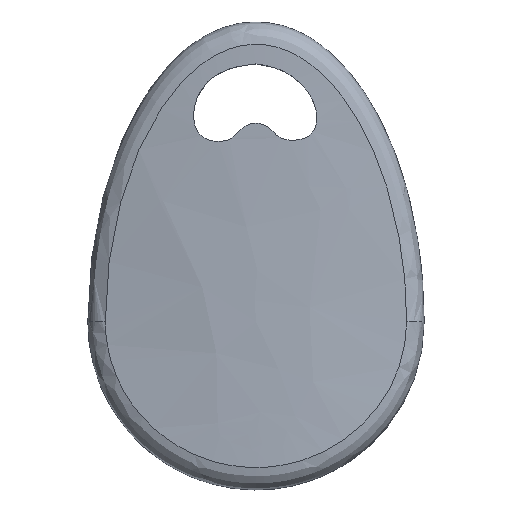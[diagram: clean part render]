
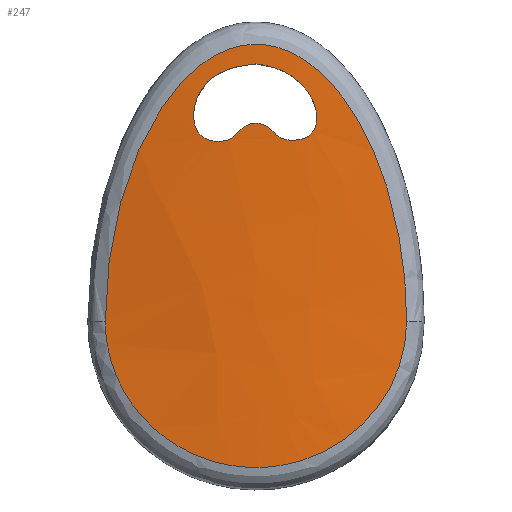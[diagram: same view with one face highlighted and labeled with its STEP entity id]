
A CAD part, top view. The second image highlights one B-rep face of the part: STEP entity #247.
In plain terms, the highlighted face is a extrusion surface.
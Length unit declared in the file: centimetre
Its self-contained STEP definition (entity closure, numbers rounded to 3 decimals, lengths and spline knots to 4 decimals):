
#141=SURFACE_OF_LINEAR_EXTRUSION('',#321,#1162);
#150=B_SPLINE_CURVE_WITH_KNOTS('',3,(#2168,#2169,#2170,#2171,#2172,#2173,
#2174,#2175,#2176,#2177,#2178,#2179,#2180,#2181,#2182,#2183,#2184,#2185),
 .UNSPECIFIED.,.F.,.U.,(4,2,2,2,2,2,2,2,4),(-4.0766,-3.3867,
-2.7177,-2.2996,-2.0383,-1.777,
-1.3589,-0.6899,0.),.UNSPECIFIED.);
#151=B_SPLINE_CURVE_WITH_KNOTS('',3,(#2294,#2295,#2296,#2297,#2298,#2299,
#2300,#2301,#2302,#2303,#2304,#2305,#2306,#2307,#2308,#2309,#2310,#2311),
 .UNSPECIFIED.,.F.,.U.,(4,2,2,2,2,2,2,2,4),(0.,0.7739,
2.0122,2.8326,3.2428,3.653,4.2377,
5.1186,6.0367),.UNSPECIFIED.);
#152=B_SPLINE_CURVE_WITH_KNOTS('',3,(#2314,#2315,#2316,#2317,#2318,#2319,
#2320,#2321,#2322,#2323,#2324,#2325,#2326,#2327,#2328,#2329,#2330,#2331,
#2332,#2333,#2334,#2335,#2336,#2337,#2338,#2339,#2340,#2341,#2342,#2343,
#2344,#2345,#2346,#2347,#2348,#2349,#2350,#2351,#2352,#2353,#2354,#2355,
#2356,#2357,#2358,#2359,#2360,#2361,#2362,#2363,#2364,#2365,#2366,#2367,
#2368,#2369),.UNSPECIFIED.,.T.,.U.,(4,2,2,2,2,2,2,2,2,2,2,2,2,2,2,2,2,2,
2,2,2,2,2,2,2,2,2,4),(-3.5599,-3.4341,-3.3423,
-3.2155,-3.0935,-2.998,-2.9411,-2.9005,
-2.8495,-2.7536,-2.6784,-2.6059,
-2.5159,-2.401,-2.2501,-2.0491,-1.7882,
-1.6083,-1.4648,-1.2636,-1.0942,
-0.9941,-0.9069,-0.8044,-0.6708,
-0.4977,-0.2932,0.),.UNSPECIFIED.);
#161=VERTEX_POINT('',#2147);
#162=VERTEX_POINT('',#2167);
#163=VERTEX_POINT('',#2370);
#178=EDGE_CURVE('',#162,#161,#150,.T.);
#179=EDGE_CURVE('',#161,#162,#151,.T.);
#180=EDGE_CURVE('',#163,#163,#152,.T.);
#210=ORIENTED_EDGE('',*,*,#180,.F.);
#211=ORIENTED_EDGE('',*,*,#178,.F.);
#212=ORIENTED_EDGE('',*,*,#179,.F.);
#226=EDGE_LOOP('',(#210));
#227=EDGE_LOOP('',(#211,#212));
#237=FACE_BOUND('',#226,.T.);
#238=FACE_BOUND('',#227,.T.);
#247=ADVANCED_FACE('',(#237,#238),#141,.T.);
#321=ELLIPSE('',#1087,2.0146,0.5022);
#1087=AXIS2_PLACEMENT_3D('',#2313,#1353,#1354);
#1162=VECTOR('',#1355,1.);
#1353=DIRECTION('',(0.,1.,0.));
#1354=DIRECTION('',(-1.,0.,0.));
#1355=DIRECTION('',(0.,1.,0.));
#2147=CARTESIAN_POINT('',(-1.3435,0.,0.5701));
#2167=CARTESIAN_POINT('',(1.3435,0.,0.5701));
#2168=CARTESIAN_POINT('',(1.3435,0.,0.5701));
#2169=CARTESIAN_POINT('',(1.3435,-0.23,0.5701));
#2170=CARTESIAN_POINT('',(1.2767,-0.4616,0.5862));
#2171=CARTESIAN_POINT('',(1.0349,-0.8537,0.6283));
#2172=CARTESIAN_POINT('',(0.8652,-1.0155,0.6525));
#2173=CARTESIAN_POINT('',(0.5401,-1.1969,0.6809));
#2174=CARTESIAN_POINT('',(0.4045,-1.2466,0.6892));
#2175=CARTESIAN_POINT('',(0.1767,-1.2915,0.6967));
#2176=CARTESIAN_POINT('',(0.0873,-1.3001,0.6981));
#2177=CARTESIAN_POINT('',(-0.0915,-1.2999,0.6981));
#2178=CARTESIAN_POINT('',(-0.1809,-1.2909,0.6966));
#2179=CARTESIAN_POINT('',(-0.4084,-1.2453,0.689));
#2180=CARTESIAN_POINT('',(-0.5442,-1.1951,0.6806));
#2181=CARTESIAN_POINT('',(-0.8677,-1.0133,0.6522));
#2182=CARTESIAN_POINT('',(-1.0372,-0.8508,0.6279));
#2183=CARTESIAN_POINT('',(-1.2772,-0.4598,0.5861));
#2184=CARTESIAN_POINT('',(-1.3435,-0.23,0.5701));
#2185=CARTESIAN_POINT('',(-1.3435,0.,0.5701));
#2294=CARTESIAN_POINT('',(-1.3435,0.,0.5701));
#2295=CARTESIAN_POINT('',(-1.3435,0.258,0.5701));
#2296=CARTESIAN_POINT('',(-1.3206,0.5176,0.5755));
#2297=CARTESIAN_POINT('',(-1.1969,1.1793,0.6006));
#2298=CARTESIAN_POINT('',(-1.0608,1.5853,0.6277));
#2299=CARTESIAN_POINT('',(-0.6705,2.1571,0.6714));
#2300=CARTESIAN_POINT('',(-0.4601,2.3718,0.6895));
#2301=CARTESIAN_POINT('',(-0.0544,2.4865,0.6991));
#2302=CARTESIAN_POINT('',(0.0928,2.482,0.6987));
#2303=CARTESIAN_POINT('',(0.3595,2.3919,0.6912));
#2304=CARTESIAN_POINT('',(0.4778,2.3122,0.6845));
#2305=CARTESIAN_POINT('',(0.727,2.083,0.6658));
#2306=CARTESIAN_POINT('',(0.842,1.9206,0.6529));
#2307=CARTESIAN_POINT('',(1.0809,1.4873,0.6216));
#2308=CARTESIAN_POINT('',(1.1776,1.2064,0.6039));
#2309=CARTESIAN_POINT('',(1.3112,0.6164,0.5778));
#2310=CARTESIAN_POINT('',(1.3435,0.3061,0.5701));
#2311=CARTESIAN_POINT('',(1.3435,0.,0.5701));
#2313=CARTESIAN_POINT('',(0.,-6.7047,0.1959));
#2314=CARTESIAN_POINT('',(0.,2.3,0.6981));
#2315=CARTESIAN_POINT('',(-0.0658,2.2949,0.6981));
#2316=CARTESIAN_POINT('',(-0.1334,2.285,0.6973));
#2317=CARTESIAN_POINT('',(-0.2435,2.2544,0.6946));
#2318=CARTESIAN_POINT('',(-0.2891,2.2371,0.693));
#2319=CARTESIAN_POINT('',(-0.3894,2.1809,0.6889));
#2320=CARTESIAN_POINT('',(-0.4297,2.1427,0.6866));
#2321=CARTESIAN_POINT('',(-0.4891,2.0667,0.6832));
#2322=CARTESIAN_POINT('',(-0.5228,2.012,0.6809));
#2323=CARTESIAN_POINT('',(-0.5567,1.8928,0.6786));
#2324=CARTESIAN_POINT('',(-0.5594,1.8436,0.6784));
#2325=CARTESIAN_POINT('',(-0.5512,1.7742,0.679));
#2326=CARTESIAN_POINT('',(-0.5446,1.744,0.6794));
#2327=CARTESIAN_POINT('',(-0.5209,1.695,0.6811));
#2328=CARTESIAN_POINT('',(-0.5079,1.6766,0.6819));
#2329=CARTESIAN_POINT('',(-0.4705,1.6418,0.6843));
#2330=CARTESIAN_POINT('',(-0.4485,1.6311,0.6855));
#2331=CARTESIAN_POINT('',(-0.3991,1.6127,0.6882));
#2332=CARTESIAN_POINT('',(-0.362,1.6078,0.69));
#2333=CARTESIAN_POINT('',(-0.3004,1.6094,0.6926));
#2334=CARTESIAN_POINT('',(-0.2744,1.6136,0.6935));
#2335=CARTESIAN_POINT('',(-0.2322,1.6281,0.6948));
#2336=CARTESIAN_POINT('',(-0.2149,1.6384,0.6953));
#2337=CARTESIAN_POINT('',(-0.176,1.6731,0.6962));
#2338=CARTESIAN_POINT('',(-0.1594,1.6956,0.6966));
#2339=CARTESIAN_POINT('',(-0.1105,1.7398,0.6974));
#2340=CARTESIAN_POINT('',(-0.0835,1.752,0.6977));
#2341=CARTESIAN_POINT('',(-0.0488,1.7654,0.698));
#2342=CARTESIAN_POINT('',(-0.0279,1.7702,0.6981));
#2343=CARTESIAN_POINT('',(0.0213,1.7716,0.6981));
#2344=CARTESIAN_POINT('',(0.0447,1.7651,0.698));
#2345=CARTESIAN_POINT('',(0.0841,1.7502,0.6977));
#2346=CARTESIAN_POINT('',(0.1097,1.737,0.6974));
#2347=CARTESIAN_POINT('',(0.1563,1.6943,0.6966));
#2348=CARTESIAN_POINT('',(0.1717,1.6753,0.6963));
#2349=CARTESIAN_POINT('',(0.2072,1.6462,0.6955));
#2350=CARTESIAN_POINT('',(0.2233,1.637,0.6951));
#2351=CARTESIAN_POINT('',(0.2697,1.6218,0.6936));
#2352=CARTESIAN_POINT('',(0.3045,1.6178,0.6924));
#2353=CARTESIAN_POINT('',(0.3698,1.6208,0.6896));
#2354=CARTESIAN_POINT('',(0.4013,1.6261,0.6881));
#2355=CARTESIAN_POINT('',(0.4457,1.6425,0.6857));
#2356=CARTESIAN_POINT('',(0.4653,1.652,0.6846));
#2357=CARTESIAN_POINT('',(0.4994,1.6808,0.6825));
#2358=CARTESIAN_POINT('',(0.5119,1.6969,0.6816));
#2359=CARTESIAN_POINT('',(0.5324,1.7372,0.6803));
#2360=CARTESIAN_POINT('',(0.5392,1.7625,0.6798));
#2361=CARTESIAN_POINT('',(0.5449,1.8309,0.6794));
#2362=CARTESIAN_POINT('',(0.5404,1.8764,0.6797));
#2363=CARTESIAN_POINT('',(0.5044,1.9885,0.6822));
#2364=CARTESIAN_POINT('',(0.47,2.0436,0.6844));
#2365=CARTESIAN_POINT('',(0.3895,2.1402,0.6888));
#2366=CARTESIAN_POINT('',(0.3375,2.1826,0.6912));
#2367=CARTESIAN_POINT('',(0.1928,2.2632,0.6963));
#2368=CARTESIAN_POINT('',(0.0971,2.2887,0.6981));
#2369=CARTESIAN_POINT('',(0.,2.3,0.6981));
#2370=CARTESIAN_POINT('',(0.,2.3,0.6981));
